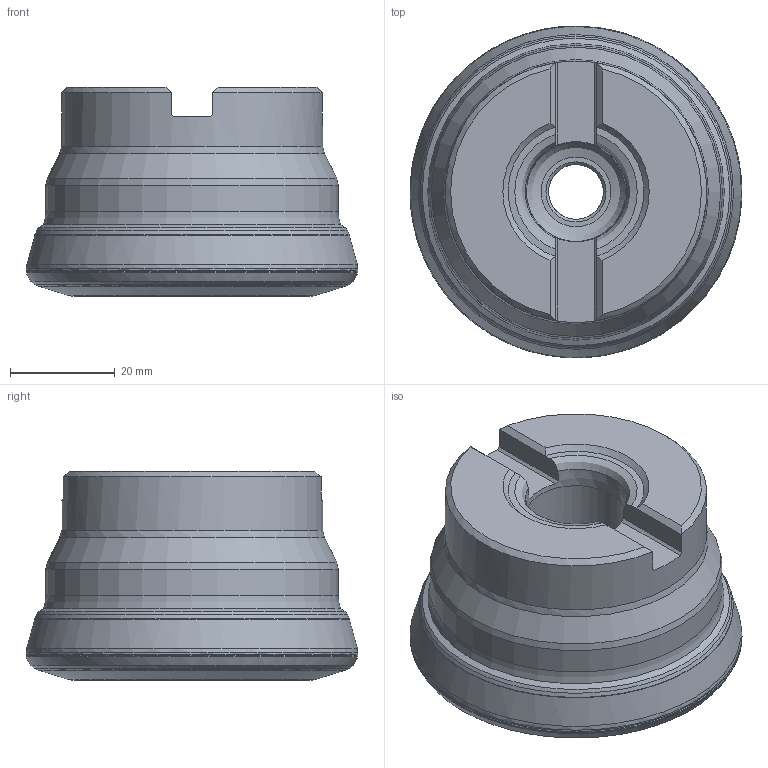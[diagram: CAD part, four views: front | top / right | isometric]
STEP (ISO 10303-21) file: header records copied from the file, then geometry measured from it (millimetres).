
FILE_DESCRIPTION(/* description */ (''),/* implementation_level */ '2;1');
FILE_NAME(/* name */ 'xmr03-2.50''''-a0.75''''-sn12-06c.stp',/* time_stamp */ '2023-03-05T10:59:55+08:00',/* author */ (''),/* organization */ (''),/* preprocessor_version */ 'ST-DEVELOPER v16.7',/* originating_system */ 'SIEMENS PLM Software NX 12.0',/* authorisation */ '');
FILE_SCHEMA (('AUTOMOTIVE_DESIGN { 1 0 10303 214 3 1 1 1 }'));
Length unit declared in the file: millimetre
Products named in the file (1): xinx2650453B10z4
Bounding box: 63.52 x 63.52 x 40 mm (x, y, z)
Volume: 100737.3 mm3; surface area: 19960.8 mm2
Topology: 2 solids, 2 shells, 92 faces, 215 edges, 129 vertices
Faces by surface type: cone 30, torus 26, plane 20, cylinder 10, revolution 6
Full cylindrical faces by diameter (mm): 10.5 x1, 16 x1, 19.05 x1, 21.05 x1, 50 x1, 56 x1
Entity records: 2923 total; most frequent: CARTESIAN_POINT 1272, DIRECTION 308, ORIENTED_EDGE 260, EDGE_LOOP 158, AXIS2_PLACEMENT_3D 139, FACE_BOUND 134, EDGE_CURVE 130, VERTEX_POINT 106
